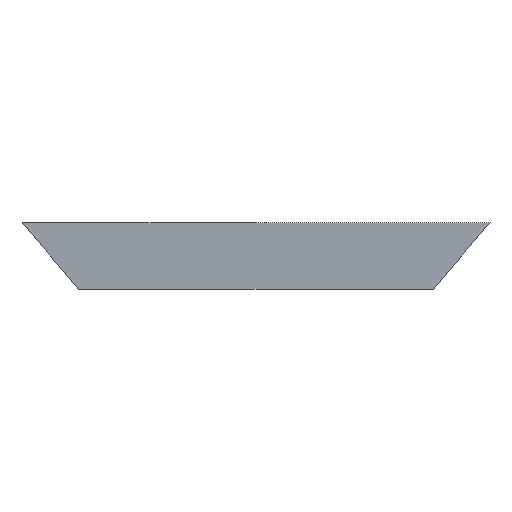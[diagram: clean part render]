
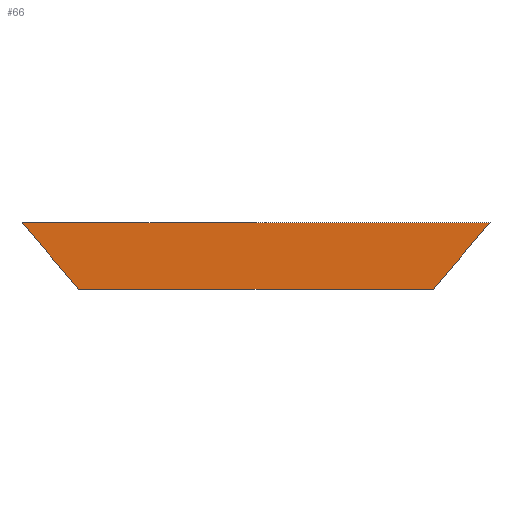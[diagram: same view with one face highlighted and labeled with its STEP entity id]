
A CAD part, front view. The second image highlights one B-rep face of the part: STEP entity #66.
In plain terms, the highlighted planar face has unit normal (0, -1, 0).
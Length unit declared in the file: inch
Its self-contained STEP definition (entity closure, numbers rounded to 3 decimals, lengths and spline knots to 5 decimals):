
#8 = DIRECTION ( 'NONE',  ( -0.648, 0., -0.762 ) ) ;
#10 = VERTEX_POINT ( 'NONE', #46 ) ;
#18 = EDGE_CURVE ( 'NONE', #10, #77, #52, .T. ) ;
#23 = CARTESIAN_POINT ( 'NONE',  ( 0.53125, 0., -0.625 ) ) ;
#32 = VECTOR ( 'NONE', #38, 39.37008 ) ;
#33 = ORIENTED_EDGE ( 'NONE', *, *, #18, .F. ) ;
#38 = DIRECTION ( 'NONE',  ( -1., 0., 0. ) ) ;
#40 = FACE_OUTER_BOUND ( 'NONE', #64, .T. ) ;
#46 = CARTESIAN_POINT ( 'NONE',  ( 3.84375, 0., -0.625 ) ) ;
#49 = VERTEX_POINT ( 'NONE', #198 ) ;
#52 = LINE ( 'NONE', #178, #32 ) ;
#59 = DIRECTION ( 'NONE',  ( 1., 0., 0. ) ) ;
#63 = VECTOR ( 'NONE', #87, 39.37008 ) ;
#64 = EDGE_LOOP ( 'NONE', ( #89, #33, #138, #171 ) ) ;
#66 = ADVANCED_FACE ( 'NONE', ( #40 ), #95, .T. ) ;
#77 = VERTEX_POINT ( 'NONE', #82 ) ;
#82 = CARTESIAN_POINT ( 'NONE',  ( 0.53125, 0., -0.625 ) ) ;
#87 = DIRECTION ( 'NONE',  ( -0.648, 0., 0.762 ) ) ;
#89 = ORIENTED_EDGE ( 'NONE', *, *, #152, .F. ) ;
#95 = PLANE ( 'NONE',  #202 ) ;
#98 = CARTESIAN_POINT ( 'NONE',  ( 0., 0., 0. ) ) ;
#99 = VECTOR ( 'NONE', #8, 39.37008 ) ;
#101 = CARTESIAN_POINT ( 'NONE',  ( 4.375, 0., 0. ) ) ;
#133 = DIRECTION ( 'NONE',  ( 0., -1., 0. ) ) ;
#134 = CARTESIAN_POINT ( 'NONE',  ( 4.375, 0., 0. ) ) ;
#136 = LINE ( 'NONE', #101, #99 ) ;
#137 = EDGE_CURVE ( 'NONE', #205, #10, #136, .T. ) ;
#138 = ORIENTED_EDGE ( 'NONE', *, *, #137, .F. ) ;
#152 = EDGE_CURVE ( 'NONE', #77, #49, #169, .T. ) ;
#155 = CARTESIAN_POINT ( 'NONE',  ( 0., 0., 0. ) ) ;
#164 = DIRECTION ( 'NONE',  ( 0., 0., -1. ) ) ;
#169 = LINE ( 'NONE', #23, #63 ) ;
#171 = ORIENTED_EDGE ( 'NONE', *, *, #180, .F. ) ;
#178 = CARTESIAN_POINT ( 'NONE',  ( 3.84375, 0., -0.625 ) ) ;
#180 = EDGE_CURVE ( 'NONE', #49, #205, #182, .T. ) ;
#182 = LINE ( 'NONE', #155, #207 ) ;
#198 = CARTESIAN_POINT ( 'NONE',  ( 0., 0., 0. ) ) ;
#202 = AXIS2_PLACEMENT_3D ( 'NONE', #98, #133, #164 ) ;
#205 = VERTEX_POINT ( 'NONE', #134 ) ;
#207 = VECTOR ( 'NONE', #59, 39.37008 ) ;
